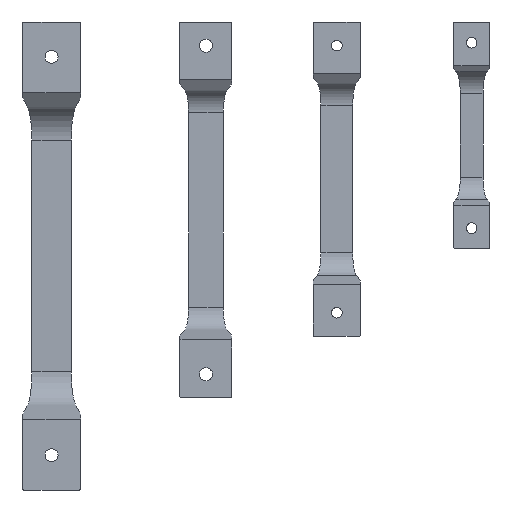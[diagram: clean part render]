
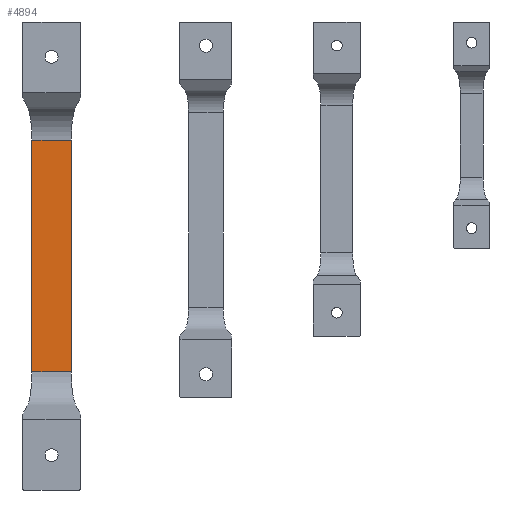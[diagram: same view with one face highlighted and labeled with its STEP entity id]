
A CAD part, front view. The second image highlights one B-rep face of the part: STEP entity #4894.
In plain terms, the highlighted planar face has unit normal (0, -1, 0).
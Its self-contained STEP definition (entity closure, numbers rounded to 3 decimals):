
#23 = EDGE_CURVE ( 'NONE', #2189, #2200, #4107, .T. ) ;
#26 = EDGE_CURVE ( 'NONE', #2086, #2256, #4077, .T. ) ;
#27 = EDGE_CURVE ( 'NONE', #2200, #2256, #4110, .T. ) ;
#53 = EDGE_CURVE ( 'NONE', #2189, #2086, #4187, .T. ) ;
#700 = AXIS2_PLACEMENT_3D ( 'NONE', #1363, #1379, #1353 ) ;
#1352 = PLANE ( 'NONE',  #700 ) ;
#1353 = DIRECTION ( 'NONE',  ( 0., 0., 1. ) ) ;
#1360 = FACE_OUTER_BOUND ( 'NONE', #1910, .T. ) ;
#1363 = CARTESIAN_POINT ( 'NONE',  ( -137.75, 27., 48.971 ) ) ;
#1379 = DIRECTION ( 'NONE',  ( 0., 1., 0. ) ) ;
#1910 = EDGE_LOOP ( 'NONE', ( #2375, #2452, #2458, #2417 ) ) ;
#2086 = VERTEX_POINT ( 'NONE', #3456 ) ;
#2189 = VERTEX_POINT ( 'NONE', #2926 ) ;
#2200 = VERTEX_POINT ( 'NONE', #2876 ) ;
#2256 = VERTEX_POINT ( 'NONE', #2958 ) ;
#2375 = ORIENTED_EDGE ( 'NONE', *, *, #23, .F. ) ;
#2417 = ORIENTED_EDGE ( 'NONE', *, *, #27, .F. ) ;
#2452 = ORIENTED_EDGE ( 'NONE', *, *, #53, .T. ) ;
#2458 = ORIENTED_EDGE ( 'NONE', *, *, #26, .T. ) ;
#2876 = CARTESIAN_POINT ( 'NONE',  ( -141.675, 27., 48.971 ) ) ;
#2926 = CARTESIAN_POINT ( 'NONE',  ( -158.325, 27., 48.971 ) ) ;
#2958 = CARTESIAN_POINT ( 'NONE',  ( -141.675, 27., -48.971 ) ) ;
#3131 = VECTOR ( 'NONE', #4184, 1000. ) ;
#3456 = CARTESIAN_POINT ( 'NONE',  ( -158.325, 27., -48.971 ) ) ;
#3588 = VECTOR ( 'NONE', #4086, 1000. ) ;
#3592 = VECTOR ( 'NONE', #4115, 1000. ) ;
#3605 = VECTOR ( 'NONE', #4093, 1000. ) ;
#4077 = LINE ( 'NONE', #4111, #3588 ) ;
#4086 = DIRECTION ( 'NONE',  ( 1., 0., 0. ) ) ;
#4093 = DIRECTION ( 'NONE',  ( 1., 0., 0. ) ) ;
#4103 = CARTESIAN_POINT ( 'NONE',  ( -141.675, 27., -99.001 ) ) ;
#4107 = LINE ( 'NONE', #4109, #3605 ) ;
#4109 = CARTESIAN_POINT ( 'NONE',  ( -137.75, 27., 48.971 ) ) ;
#4110 = LINE ( 'NONE', #4103, #3592 ) ;
#4111 = CARTESIAN_POINT ( 'NONE',  ( -137.75, 27., -48.971 ) ) ;
#4115 = DIRECTION ( 'NONE',  ( 0., 0., -1. ) ) ;
#4184 = DIRECTION ( 'NONE',  ( 0., 0., -1. ) ) ;
#4187 = LINE ( 'NONE', #4204, #3131 ) ;
#4204 = CARTESIAN_POINT ( 'NONE',  ( -158.325, 27., -99.001 ) ) ;
#4894 = ADVANCED_FACE ( 'NONE', ( #1360 ), #1352, .F. ) ;
